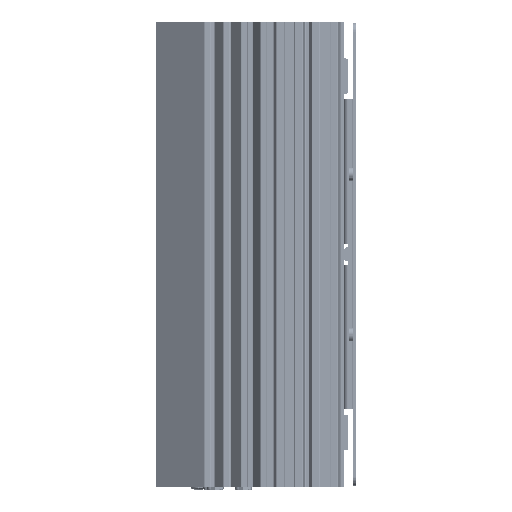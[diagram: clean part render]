
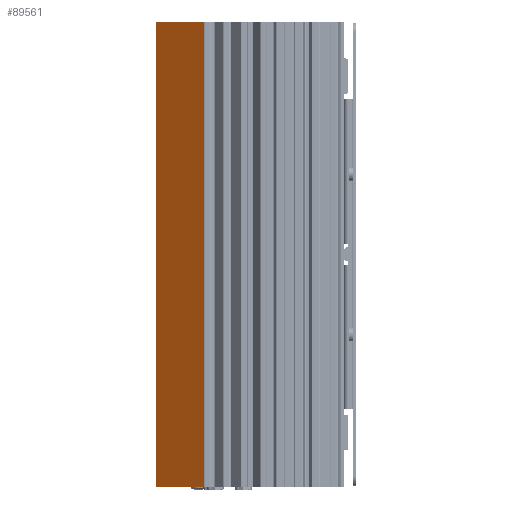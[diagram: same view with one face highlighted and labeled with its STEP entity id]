
A CAD part, left-side view. The second image highlights one B-rep face of the part: STEP entity #89561.
In plain terms, the highlighted planar face has unit normal (-0.819, 0.574, 0).
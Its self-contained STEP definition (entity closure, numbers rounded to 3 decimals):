
#31071 = EDGE_CURVE ( 'NONE', #519250, #175219, #101749, .T. ) ;
#35638 = DIRECTION ( 'NONE',  ( -0.574, -0.819, 0. ) ) ;
#48795 = CARTESIAN_POINT ( 'NONE',  ( -113.398, -7.532, 130.5 ) ) ;
#89561 = ADVANCED_FACE ( 'NONE', ( #455203 ), #117171, .F. ) ;
#101749 = LINE ( 'NONE', #116554, #674561 ) ;
#104623 = DIRECTION ( 'NONE',  ( 0., 0., 1. ) ) ;
#109453 = CARTESIAN_POINT ( 'NONE',  ( -113.398, -7.532, 130.5 ) ) ;
#116554 = CARTESIAN_POINT ( 'NONE',  ( -94.42, 19.571, 130.5 ) ) ;
#117171 = PLANE ( 'NONE',  #530236 ) ;
#144570 = CARTESIAN_POINT ( 'NONE',  ( -94.26, 19.8, 130.5 ) ) ;
#152416 = ORIENTED_EDGE ( 'NONE', *, *, #31071, .T. ) ;
#172874 = DIRECTION ( 'NONE',  ( 0.819, -0.574, 0. ) ) ;
#175219 = VERTEX_POINT ( 'NONE', #360728 ) ;
#185440 = LINE ( 'NONE', #48795, #462956 ) ;
#187943 = LINE ( 'NONE', #591201, #335645 ) ;
#203290 = EDGE_CURVE ( 'NONE', #519250, #714652, #661666, .T. ) ;
#246365 = EDGE_LOOP ( 'NONE', ( #668886, #449393, #569894, #152416 ) ) ;
#314962 = DIRECTION ( 'NONE',  ( -0.574, -0.819, 0. ) ) ;
#329135 = CARTESIAN_POINT ( 'NONE',  ( -94.42, 19.571, 130.5 ) ) ;
#335645 = VECTOR ( 'NONE', #314962, 1000. ) ;
#335663 = CARTESIAN_POINT ( 'NONE',  ( -94.26, 19.8, 130.5 ) ) ;
#360728 = CARTESIAN_POINT ( 'NONE',  ( -94.42, 19.571, -130.5 ) ) ;
#366530 = VECTOR ( 'NONE', #35638, 1000. ) ;
#449393 = ORIENTED_EDGE ( 'NONE', *, *, #557628, .T. ) ;
#455203 = FACE_OUTER_BOUND ( 'NONE', #246365, .T. ) ;
#462956 = VECTOR ( 'NONE', #104623, 1000. ) ;
#519250 = VERTEX_POINT ( 'NONE', #329135 ) ;
#530236 = AXIS2_PLACEMENT_3D ( 'NONE', #335663, #172874, #560796 ) ;
#548930 = EDGE_CURVE ( 'NONE', #175219, #678994, #187943, .T. ) ;
#557628 = EDGE_CURVE ( 'NONE', #678994, #714652, #185440, .T. ) ;
#560796 = DIRECTION ( 'NONE',  ( 0.574, 0.819, 0. ) ) ;
#569894 = ORIENTED_EDGE ( 'NONE', *, *, #203290, .F. ) ;
#591201 = CARTESIAN_POINT ( 'NONE',  ( -94.26, 19.8, -130.5 ) ) ;
#641865 = CARTESIAN_POINT ( 'NONE',  ( -113.398, -7.532, -130.5 ) ) ;
#661666 = LINE ( 'NONE', #144570, #366530 ) ;
#668886 = ORIENTED_EDGE ( 'NONE', *, *, #548930, .T. ) ;
#672065 = DIRECTION ( 'NONE',  ( 0., 0., -1. ) ) ;
#674561 = VECTOR ( 'NONE', #672065, 1000. ) ;
#678994 = VERTEX_POINT ( 'NONE', #641865 ) ;
#714652 = VERTEX_POINT ( 'NONE', #109453 ) ;
